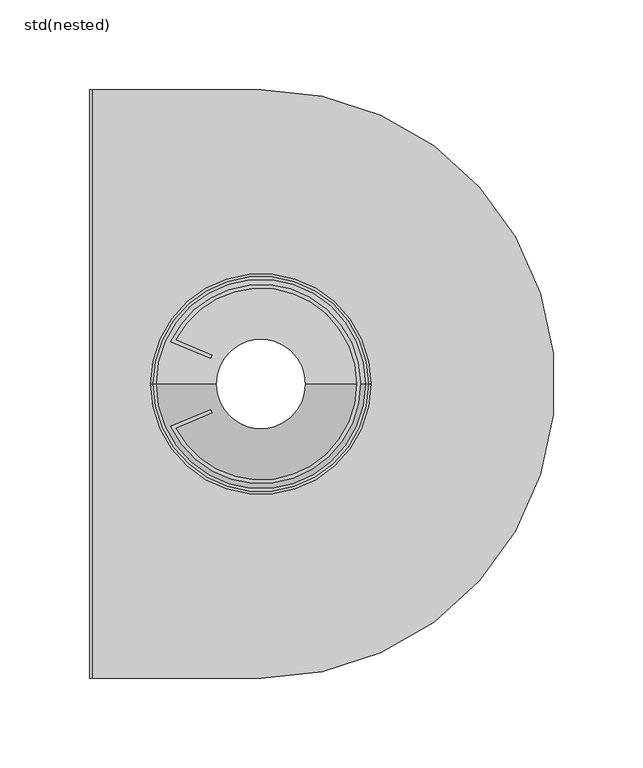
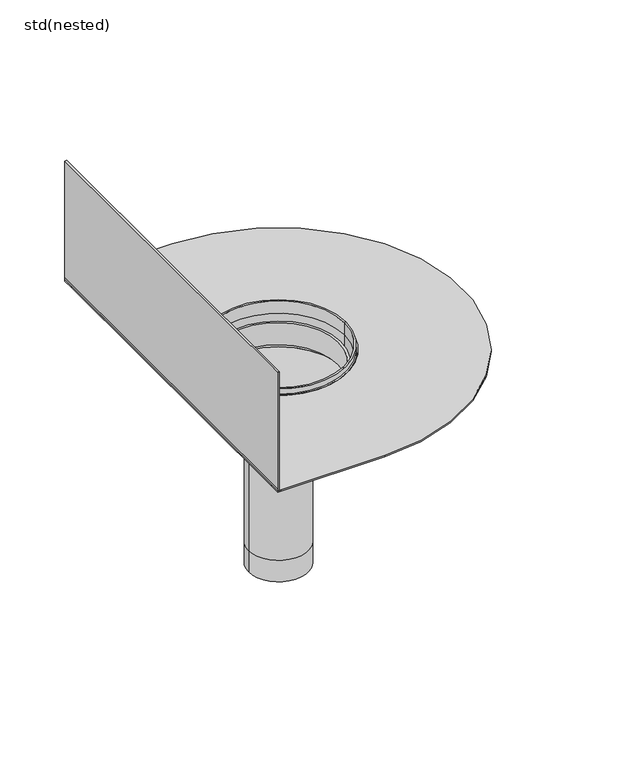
"""IFC4 building model written with IfcOpenShell, lengths in millimetres: sanitary terminal geometry, ZZZ_do not use_PF_ST_UN_direct balcony drain with adhesive flange and wall upstand_ACO : std(nested)."""

from ifc_helpers import new_model, si_unit, point, frame, origin, origin_2d, place, context, project, spatial, polyline, circle_curve, trimmed, segment, composite_curve, outline, extrude, source, transform, mapped, element, save
from ifc_brep_helpers import plane_surface, cylinder_surface, revolved_surface, advanced_brep


def std_nested_cfd5f67f(model_context):
    return source(origin(), model_context, "Body", "SolidModel", [
        extrude(outline(composite_curve([segment(trimmed(circle_curve(origin_2d(), 55.5), [point((-50.2594962, 23.5421546))], [point((-28.1544715, 47.8286079))], False, "CARTESIAN"), True, "CONTINUOUS"), segment(trimmed(circle_curve(origin_2d(), 55.5), [point((-28.1544715, 47.8286079))], [point((-50.2594962, -23.5421546))], False, "CARTESIAN"), True, "CONTINUOUS"), segment(polyline([(-50.2594962, -23.5421546), (-27.9817054, -14.3050218), (-27.2156753, -16.152506), (-47.5230087, -24.5726198)]), True, "CONTINUOUS"), segment(trimmed(circle_curve(origin_2d(), 53.5), [point((-47.5230087, -24.5726198))], [point((-47.5230087, 24.5726198))], True, "CARTESIAN"), True, "CONTINUOUS"), segment(polyline([(-47.5230087, 24.5726198), (-27.2156753, 16.152506), (-27.9817054, 14.3050218), (-50.2594962, 23.5421546)]), True, "CONTINUOUS")], self_intersect=False)), frame((0.0, 0.0, -38.0), z_axis=(0.0, 0.0, 1.0), x_axis=(1.0, 0.0, 0.0)), (0.0, 0.0, 1.0), 21.0),
        extrude(outline(polyline([(-3.5625, -95.5), (-5.0, -95.5), (-5.0, -94.0), (-3.5625, -94.0), (106.5, -94.0), (106.5, -95.5), (-3.5625, -95.5)])), frame((0.0, -164.0, 0.0), z_axis=(0.0, 1.0, 0.0), x_axis=(0.0, 0.0, 1.0)), (0.0, 0.0, 1.0), 328.0),
        advanced_brep(
        [(60.0, 0.0, -21.0), (-60.0, 0.0, -21.0), (-61.5, 0.0, -21.0), (61.5, 0.0, -21.0), (60.0, 0.0, -10.0), (-60.0, 0.0, -10.0), (60.0, 0.0, -5.0), (-60.0, 0.0, -5.0), (61.5, 0.0, -5.0), (-61.5, 0.0, -5.0), (61.5, 0.0, -10.0), (-61.5, 0.0, -10.0)],
        [
            (0, 1, circle_curve(frame((0.0, 0.0, -21.0), z_axis=(0.0, 0.0, 1.0), x_axis=(-1.0, 0.0, 0.0)), 60.0)),
            (1, 2),
            (2, 3, circle_curve(frame((0.0, 0.0, -21.0), z_axis=(0.0, 0.0, -1.0), x_axis=(-1.0, 0.0, 0.0)), 61.5)),
            (3, 0),
            (1, 0, circle_curve(frame((0.0, 0.0, -21.0), z_axis=(0.0, 0.0, 1.0), x_axis=(-1.0, 0.0, 0.0)), 60.0)),
            (3, 2, circle_curve(frame((0.0, 0.0, -21.0), z_axis=(0.0, 0.0, -1.0), x_axis=(-1.0, 0.0, 0.0)), 61.5)),
            (4, 5, circle_curve(frame((0.0, 0.0, -10.0), z_axis=(0.0, 0.0, 1.0), x_axis=(-1.0, 0.0, 0.0)), 60.0)),
            (5, 1),
            (0, 4),
            (5, 4, circle_curve(frame((0.0, 0.0, -10.0), z_axis=(0.0, 0.0, 1.0), x_axis=(-1.0, 0.0, 0.0)), 60.0)),
            (6, 7, circle_curve(frame((0.0, 0.0, -5.0), z_axis=(0.0, 0.0, 1.0), x_axis=(-1.0, 0.0, 0.0)), 60.0)),
            (7, 5),
            (4, 6),
            (7, 6, circle_curve(frame((0.0, 0.0, -5.0), z_axis=(0.0, 0.0, 1.0), x_axis=(-1.0, 0.0, 0.0)), 60.0)),
            (8, 9, circle_curve(frame((0.0, 0.0, -5.0), z_axis=(0.0, 0.0, 1.0), x_axis=(-1.0, 0.0, 0.0)), 61.5)),
            (9, 7),
            (6, 8),
            (9, 8, circle_curve(frame((0.0, 0.0, -5.0), z_axis=(0.0, 0.0, 1.0), x_axis=(-1.0, 0.0, 0.0)), 61.5)),
            (10, 11, circle_curve(frame((0.0, 0.0, -10.0), z_axis=(0.0, 0.0, 1.0), x_axis=(-1.0, 0.0, 0.0)), 61.5)),
            (11, 9),
            (8, 10),
            (11, 10, circle_curve(frame((0.0, 0.0, -10.0), z_axis=(0.0, 0.0, 1.0), x_axis=(-1.0, 0.0, 0.0)), 61.5)),
            (2, 11),
            (10, 3),
        ],
        [
            plane_surface(frame((0.0, 0.0, -21.0), z_axis=(0.0, 0.0, -1.0), x_axis=(-1.0, 0.0, 0.0))),
            revolved_surface(polyline([(-60.0, 0.0, -21.0), (-60.0, 0.0, -10.0)]), (0.0, 0.0, 22.5), (0.0, 0.0, -1.0)),
            revolved_surface(polyline([(-60.0, 0.0, -10.0), (-60.0, 0.0, -5.0)]), (0.0, 0.0, 22.5), (0.0, 0.0, -1.0)),
            plane_surface(frame((0.0, 0.0, -5.0), z_axis=(0.0, 0.0, 1.0), x_axis=(-1.0, 0.0, 0.0))),
            cylinder_surface(frame((0.0, 0.0, 22.5), z_axis=(0.0, 0.0, -1.0), x_axis=(-1.0, 0.0, 0.0)), 61.5),
        ],
        [
            (0, [[1, 2, 3, 4]]),
            (0, [[5, -4, 6, -2]]),
            (1, [[7, 8, -1, 9]]),
            (1, [[10, -9, -5, -8]]),
            (2, [[11, 12, -7, 13]]),
            (2, [[14, -13, -10, -12]]),
            (3, [[15, 16, -11, 17]]),
            (3, [[18, -17, -14, -16]]),
            (4, [[19, 20, -15, 21]]),
            (4, [[22, -21, -18, -20]]),
            (4, [[-3, 23, -19, 24]]),
            (4, [[-6, -24, -22, -23]]),
        ],
    ),
        extrude(outline(composite_curve([segment(trimmed(circle_curve(origin_2d(), 164.0), [point((0.0, 164.0))], [point((0.0, -164.0))], False, "CARTESIAN"), True, "CONTINUOUS"), segment(polyline([(0.0, -164.0), (-92.5, -164.0), (-94.0, -164.0), (-95.5, -164.0), (-95.5, -154.0), (-95.5, 154.0), (-95.5, 164.0), (-83.999021, 164.0), (-82.499021, 164.0), (0.0, 164.0)]), True, "CONTINUOUS")], self_intersect=False), holes=[composite_curve([segment(trimmed(circle_curve(origin_2d(), 60.0), [point((-60.0, 0.0))], [point((60.0, 0.0))], True, "CARTESIAN"), True, "CONTINUOUS"), segment(trimmed(circle_curve(origin_2d(), 60.0), [point((60.0, 0.0))], [point((-60.0, 0.0))], True, "CARTESIAN"), True, "CONTINUOUS")], self_intersect=False)]), frame((0.0, 0.0, -6.5), z_axis=(0.0, 0.0, 1.0), x_axis=(1.0, 0.0, 0.0)), (0.0, 0.0, 1.0), 1.5),
        advanced_brep(
        [(26.5, 0.0, -185.0), (-26.5, 0.0, -185.0), (-26.5, 0.0, -87.0), (26.5, 0.0, -87.0), (26.5, 0.0, -205.0), (-26.5, 0.0, -205.0), (25.0, 0.0, -205.0), (-25.0, 0.0, -205.0), (25.0, 0.0, -86.4846639), (-25.0, 0.0, -86.4846639), (58.5, 0.0, -43.4846639), (-58.5, 0.0, -43.4846639), (58.5, 0.0, -11.7426407), (-58.5, 0.0, -11.7426407), (58.5, 0.0, 0.0), (-58.5, 0.0, 0.0), (60.0, 0.0, 0.0), (-60.0, 0.0, 0.0), (60.0, 0.0, -11.7426407), (-60.0, 0.0, -11.7426407), (60.0, 0.0, -44.0), (-60.0, 0.0, -44.0)],
        [
            (0, 1, circle_curve(frame((0.0, 0.0, -185.0), z_axis=(0.0, 0.0, 1.0), x_axis=(-1.0, 0.0, 0.0)), 26.5)),
            (1, 2),
            (2, 3, circle_curve(frame((0.0, 0.0, -87.0), z_axis=(0.0, 0.0, -1.0), x_axis=(-1.0, 0.0, 0.0)), 26.5)),
            (3, 0),
            (1, 0, circle_curve(frame((0.0, 0.0, -185.0), z_axis=(0.0, 0.0, 1.0), x_axis=(-1.0, 0.0, 0.0)), 26.5)),
            (3, 2, circle_curve(frame((0.0, 0.0, -87.0), z_axis=(0.0, 0.0, -1.0), x_axis=(-1.0, 0.0, 0.0)), 26.5)),
            (4, 5, circle_curve(frame((0.0, 0.0, -205.0), z_axis=(0.0, 0.0, 1.0), x_axis=(-1.0, 0.0, 0.0)), 26.5)),
            (5, 1),
            (0, 4),
            (5, 4, circle_curve(frame((0.0, 0.0, -205.0), z_axis=(0.0, 0.0, 1.0), x_axis=(-1.0, 0.0, 0.0)), 26.5)),
            (6, 7, circle_curve(frame((0.0, 0.0, -205.0), z_axis=(0.0, 0.0, 1.0), x_axis=(-1.0, 0.0, 0.0)), 25.0)),
            (7, 5),
            (4, 6),
            (7, 6, circle_curve(frame((0.0, 0.0, -205.0), z_axis=(0.0, 0.0, 1.0), x_axis=(-1.0, 0.0, 0.0)), 25.0)),
            (8, 9, circle_curve(frame((0.0, 0.0, -86.4846639), z_axis=(0.0, 0.0, 1.0), x_axis=(-1.0, 0.0, 0.0)), 25.0)),
            (9, 7),
            (6, 8),
            (9, 8, circle_curve(frame((0.0, 0.0, -86.4846639), z_axis=(0.0, 0.0, 1.0), x_axis=(-1.0, 0.0, 0.0)), 25.0)),
            (10, 11, circle_curve(frame((0.0, 0.0, -43.4846639), z_axis=(0.0, 0.0, 1.0), x_axis=(-1.0, 0.0, 0.0)), 58.5)),
            (11, 9),
            (8, 10),
            (11, 10, circle_curve(frame((0.0, 0.0, -43.4846639), z_axis=(0.0, 0.0, 1.0), x_axis=(-1.0, 0.0, 0.0)), 58.5)),
            (12, 13, circle_curve(frame((0.0, 0.0, -11.7426407), z_axis=(0.0, 0.0, 1.0), x_axis=(-1.0, 0.0, 0.0)), 58.5)),
            (13, 11),
            (10, 12),
            (13, 12, circle_curve(frame((0.0, 0.0, -11.7426407), z_axis=(0.0, 0.0, 1.0), x_axis=(-1.0, 0.0, 0.0)), 58.5)),
            (14, 15, circle_curve(frame((0.0, 0.0, 0.0), z_axis=(0.0, 0.0, 1.0), x_axis=(-1.0, 0.0, 0.0)), 58.5)),
            (15, 13),
            (12, 14),
            (15, 14, circle_curve(frame((0.0, 0.0, 0.0), z_axis=(0.0, 0.0, 1.0), x_axis=(-1.0, 0.0, 0.0)), 58.5)),
            (16, 17, circle_curve(frame((0.0, 0.0, 0.0), z_axis=(0.0, 0.0, 1.0), x_axis=(-1.0, 0.0, 0.0)), 60.0)),
            (17, 15),
            (14, 16),
            (17, 16, circle_curve(frame((0.0, 0.0, 0.0), z_axis=(0.0, 0.0, 1.0), x_axis=(-1.0, 0.0, 0.0)), 60.0)),
            (18, 19, circle_curve(frame((0.0, 0.0, -11.7426407), z_axis=(0.0, 0.0, 1.0), x_axis=(-1.0, 0.0, 0.0)), 60.0)),
            (19, 17),
            (16, 18),
            (19, 18, circle_curve(frame((0.0, 0.0, -11.7426407), z_axis=(0.0, 0.0, 1.0), x_axis=(-1.0, 0.0, 0.0)), 60.0)),
            (20, 21, circle_curve(frame((0.0, 0.0, -44.0), z_axis=(0.0, 0.0, 1.0), x_axis=(-1.0, 0.0, 0.0)), 60.0)),
            (21, 19),
            (18, 20),
            (21, 20, circle_curve(frame((0.0, 0.0, -44.0), z_axis=(0.0, 0.0, 1.0), x_axis=(-1.0, 0.0, 0.0)), 60.0)),
            (2, 21),
            (20, 3),
        ],
        [
            cylinder_surface(frame((0.0, 0.0, -277.0), z_axis=(0.0, 0.0, -1.0), x_axis=(-1.0, 0.0, 0.0)), 26.5),
            plane_surface(frame((0.0, 0.0, -205.0), z_axis=(0.0, 0.0, -1.0), x_axis=(-1.0, 0.0, 0.0))),
            revolved_surface(polyline([(-25.0, 0.0, -205.0), (-25.0, 0.0, -86.48466389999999)]), (0.0, 0.0, -277.0), (0.0, 0.0, -1.0)),
            revolved_surface(polyline([(-25.0, 0.0, -86.4846639), (-58.5, 0.0, -43.4846639)]), (0.0, 0.0, -277.0), (0.0, 0.0, -1.0)),
            revolved_surface(polyline([(-58.5, 0.0, -43.48466389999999), (-58.5, 0.0, -11.742640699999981)]), (0.0, 0.0, -277.0), (0.0, 0.0, -1.0)),
            revolved_surface(polyline([(-58.5, 0.0, -11.742640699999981), (-58.5, 0.0, 0.0)]), (0.0, 0.0, -277.0), (0.0, 0.0, -1.0)),
            plane_surface(frame((0.0, 0.0, 0.0), z_axis=(0.0, 0.0, 1.0), x_axis=(-1.0, 0.0, 0.0))),
            cylinder_surface(frame((0.0, 0.0, -277.0), z_axis=(0.0, 0.0, -1.0), x_axis=(-1.0, 0.0, 0.0)), 60.0),
            revolved_surface(polyline([(-60.0, 0.0, -44.0), (-26.5, 0.0, -87.0)]), (0.0, 0.0, -277.0), (0.0, 0.0, -1.0)),
        ],
        [
            (0, [[1, 2, 3, 4]]),
            (0, [[5, -4, 6, -2]]),
            (0, [[7, 8, -1, 9]]),
            (0, [[10, -9, -5, -8]]),
            (1, [[11, 12, -7, 13]]),
            (1, [[14, -13, -10, -12]]),
            (2, [[15, 16, -11, 17]]),
            (2, [[18, -17, -14, -16]]),
            (3, [[19, 20, -15, 21]]),
            (3, [[22, -21, -18, -20]]),
            (4, [[23, 24, -19, 25]]),
            (4, [[26, -25, -22, -24]]),
            (5, [[27, 28, -23, 29]]),
            (5, [[30, -29, -26, -28]]),
            (6, [[31, 32, -27, 33]]),
            (6, [[34, -33, -30, -32]]),
            (7, [[35, 36, -31, 37]]),
            (7, [[38, -37, -34, -36]]),
            (7, [[39, 40, -35, 41]]),
            (7, [[42, -41, -38, -40]]),
            (8, [[-3, 43, -39, 44]]),
            (8, [[-6, -44, -42, -43]]),
        ],
    ),
    ])


if __name__ == "__main__":
    model = new_model("IFC4")
    model_context = context("Model", 3, world=origin())
    ifc_project = project(units=[si_unit("LENGTHUNIT", "METRE", prefix="MILLI")], contexts=[model_context])
    site = spatial("IfcSite", under=ifc_project)
    building = spatial("IfcBuilding", under=site)
    placement = place(None, origin())
    std_nested_shape = std_nested_cfd5f67f(model_context)
    element("IfcSanitaryTerminal", 1, ObjectType="ZZZ_do not use_PF_ST_UN_direct balcony drain with adhesive flange and wall upstand_ACO : std(nested)", at=placement, inside=building, context=model_context, shape_type="MappedRepresentation", body=[
        mapped(std_nested_shape, transform((0.0, 0.0, 0.0), x_axis=(1.0, 0.0, 0.0), y_axis=(0.0, 1.0, 0.0), z_axis=(0.0, 0.0, 1.0))),
    ])
    save(model, "model.ifc")
